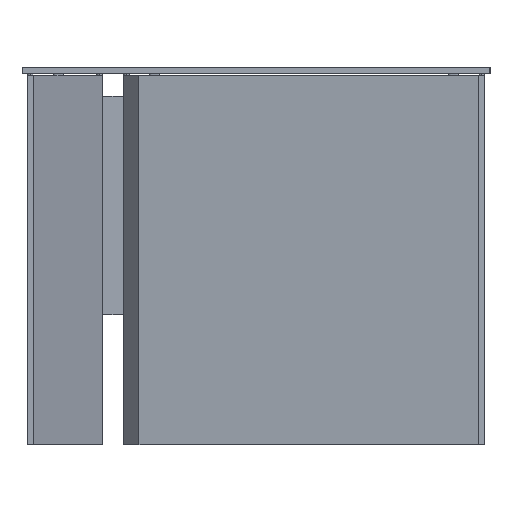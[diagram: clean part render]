
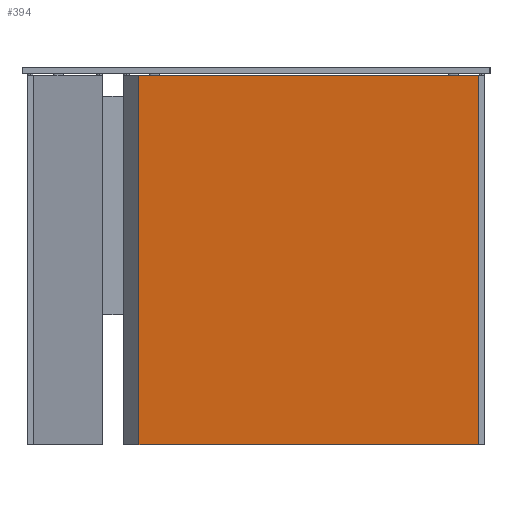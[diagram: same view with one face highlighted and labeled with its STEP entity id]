
A CAD part, left-side view. The second image highlights one B-rep face of the part: STEP entity #394.
In plain terms, the highlighted free-form (B-spline) face has degree [2, 1] with [7, 2] control points.
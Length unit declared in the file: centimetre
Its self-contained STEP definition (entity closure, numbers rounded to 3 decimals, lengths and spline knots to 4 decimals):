
#163=(
BOUNDED_SURFACE()
B_SPLINE_SURFACE(2,1,((#2728,#2729),(#2730,#2731),(#2732,#2733),(#2734,#2735),
(#2736,#2737),(#2738,#2739),(#2740,#2741)),.UNSPECIFIED.,.F.,.F.,.F.)
B_SPLINE_SURFACE_WITH_KNOTS((3,2,2,3),(2,2),(-66.5,-3.,-0.1726,
5.8274),(0.,71.),.UNSPECIFIED.)
GEOMETRIC_REPRESENTATION_ITEM()
RATIONAL_B_SPLINE_SURFACE(((1.,1.),(1.,1.),(1.,1.),(0.707,0.707),
(1.,1.),(1.,1.),(1.,1.)))
REPRESENTATION_ITEM($)
SURFACE()
);
#241=(
BOUNDED_CURVE()
B_SPLINE_CURVE(2,(#2664,#2665,#2666,#2667,#2668,#2669,#2670),.UNSPECIFIED.,
.F.,.F.)
B_SPLINE_CURVE_WITH_KNOTS((3,2,2,3),(-66.5,-3.,-0.1726,5.8274),
.UNSPECIFIED.)
CURVE()
GEOMETRIC_REPRESENTATION_ITEM()
RATIONAL_B_SPLINE_CURVE((1.,1.,1.,0.707,1.,1.,1.))
REPRESENTATION_ITEM($)
);
#245=(
BOUNDED_CURVE()
B_SPLINE_CURVE(2,(#2698,#2699,#2700,#2701,#2702,#2703,#2704),.UNSPECIFIED.,
.F.,.F.)
B_SPLINE_CURVE_WITH_KNOTS((3,2,2,3),(-5.8274,0.1726,
3.,66.5),.UNSPECIFIED.)
CURVE()
GEOMETRIC_REPRESENTATION_ITEM()
RATIONAL_B_SPLINE_CURVE((1.,1.,1.,0.707,1.,1.,1.))
REPRESENTATION_ITEM($)
);
#394=ADVANCED_FACE($,(#486),#163,.T.);
#486=FACE_OUTER_BOUND($,#578,.T.);
#578=EDGE_LOOP($,(#828,#829,#830,#831));
#828=ORIENTED_EDGE($,*,*,#1047,.T.);
#829=ORIENTED_EDGE($,*,*,#1043,.T.);
#830=ORIENTED_EDGE($,*,*,#1037,.F.);
#831=ORIENTED_EDGE($,*,*,#1036,.T.);
#1036=EDGE_CURVE($,#1170,#1175,#241,.T.);
#1037=EDGE_CURVE($,#1170,#1171,#1340,.T.);
#1043=EDGE_CURVE($,#1176,#1171,#245,.T.);
#1047=EDGE_CURVE($,#1175,#1176,#1345,.T.);
#1170=VERTEX_POINT($,#2776);
#1171=VERTEX_POINT($,#2777);
#1175=VERTEX_POINT($,#2781);
#1176=VERTEX_POINT($,#2782);
#1340=B_SPLINE_CURVE_WITH_KNOTS($,1,(#2671,#2672),.UNSPECIFIED.,.F.,.F.,
(2,2),(0.,71.),.UNSPECIFIED.);
#1345=B_SPLINE_CURVE_WITH_KNOTS($,1,(#2720,#2721),.UNSPECIFIED.,.F.,.F.,
(2,2),(0.,71.),.UNSPECIFIED.);
#2664=CARTESIAN_POINT($,(8.8,67.5,0.));
#2665=CARTESIAN_POINT($,(8.8,35.75,0.));
#2666=CARTESIAN_POINT($,(8.8,4.,0.));
#2667=CARTESIAN_POINT($,(8.8,2.2,0.));
#2668=CARTESIAN_POINT($,(7.,2.2,0.));
#2669=CARTESIAN_POINT($,(4.,2.2,0.));
#2670=CARTESIAN_POINT($,(1.,2.2,0.));
#2671=CARTESIAN_POINT($,(8.8,67.5,0.));
#2672=CARTESIAN_POINT($,(8.8,67.5,71.));
#2698=CARTESIAN_POINT($,(1.,2.2,71.));
#2699=CARTESIAN_POINT($,(4.,2.2,71.));
#2700=CARTESIAN_POINT($,(7.,2.2,71.));
#2701=CARTESIAN_POINT($,(8.8,2.2,71.));
#2702=CARTESIAN_POINT($,(8.8,4.,71.));
#2703=CARTESIAN_POINT($,(8.8,35.75,71.));
#2704=CARTESIAN_POINT($,(8.8,67.5,71.));
#2720=CARTESIAN_POINT($,(1.,2.2,0.));
#2721=CARTESIAN_POINT($,(1.,2.2,71.));
#2728=CARTESIAN_POINT($,(8.8,67.5,0.));
#2729=CARTESIAN_POINT($,(8.8,67.5,71.));
#2730=CARTESIAN_POINT($,(8.8,35.75,0.));
#2731=CARTESIAN_POINT($,(8.8,35.75,71.));
#2732=CARTESIAN_POINT($,(8.8,4.,0.));
#2733=CARTESIAN_POINT($,(8.8,4.,71.));
#2734=CARTESIAN_POINT($,(8.8,2.2,0.));
#2735=CARTESIAN_POINT($,(8.8,2.2,71.));
#2736=CARTESIAN_POINT($,(7.,2.2,0.));
#2737=CARTESIAN_POINT($,(7.,2.2,71.));
#2738=CARTESIAN_POINT($,(4.,2.2,0.));
#2739=CARTESIAN_POINT($,(4.,2.2,71.));
#2740=CARTESIAN_POINT($,(1.,2.2,0.));
#2741=CARTESIAN_POINT($,(1.,2.2,71.));
#2776=CARTESIAN_POINT($,(8.8,67.5,0.));
#2777=CARTESIAN_POINT($,(8.8,67.5,71.));
#2781=CARTESIAN_POINT($,(1.,2.2,0.));
#2782=CARTESIAN_POINT($,(1.,2.2,71.));
